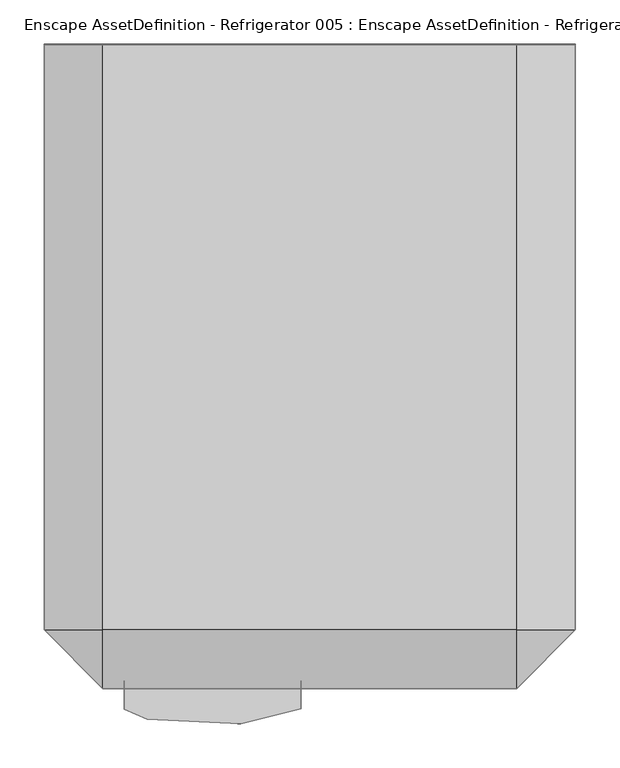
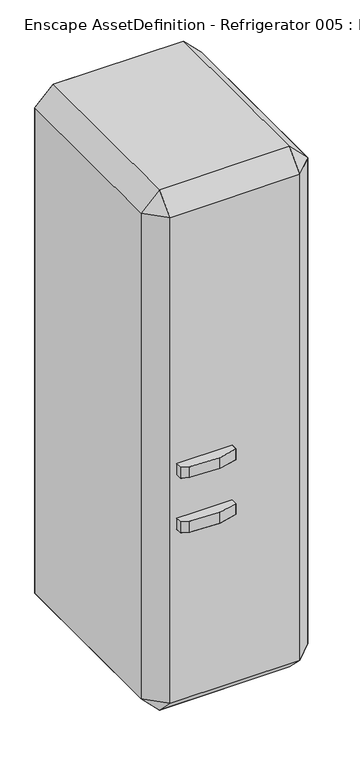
"""IFC4 building model written with IfcOpenShell, lengths in millimetres: geographic element geometry, Enscape AssetDefinition - Refrigerator 005 : Enscape AssetDefinition - Refrigerator 005."""

import ifcopenshell
import ifcopenshell.guid

model = None  # the IFC model being written
_history = None  # IfcOwnerHistory: only IFC2X3 demands one
_inside = {}  # id of a spatial element -> (the spatial element, [elements in it])
_under = {}  # id of a project, library or spatial element -> (it, [spatial elements below it])
_declared = {}  # id of a project -> (the project, [libraries it declares])
_typed = {}  # id of a type object -> (the type object, [elements of that type])
_made_of = {}  # id of a material, layer set ... -> (it, [elements and type objects made of it])


def new_model(schema):
    """Start an empty IFC model of exactly this schema.

    Asked for "IFC4X3", IfcOpenShell would pick the latest addendum, in which some entities
    have other attributes; the version numbers below select the first issue.
    IFC2X3 requires an IfcOwnerHistory on every rooted entity: one is made here for all.
    """
    global model, _history
    if schema == "IFC4X3":
        model = ifcopenshell.file(schema_version=(4, 3, 0, 0))
    else:
        model = ifcopenshell.file(schema=schema)
    _inside.clear()
    _under.clear()
    _declared.clear()
    _typed.clear()
    _made_of.clear()
    _history = None
    if model.schema == "IFC2X3":
        org = make("IfcOrganization", Name="unknown")
        user = make(
            "IfcPersonAndOrganization",
            ThePerson=make("IfcPerson", FamilyName="unknown"),
            TheOrganization=org,
        )
        app = make(
            "IfcApplication",
            ApplicationDeveloper=org,
            Version="unknown",
            ApplicationFullName="unknown",
            ApplicationIdentifier="unknown",
        )
        _history = make(
            "IfcOwnerHistory",
            OwningUser=user,
            OwningApplication=app,
            ChangeAction="ADDED",
            CreationDate=0,
        )
    return model


def make(cls, **values):
    """One entity of the class cls with the attributes given. An attribute that is None is left unset."""
    return model.create_entity(
        cls, **{name: value for name, value in values.items() if value is not None}
    )


def rooted(cls, **values):
    """An entity with a GlobalId (a new one), such as an element, a storey or a relation."""
    return make(cls, GlobalId=ifcopenshell.guid.new(), OwnerHistory=_history, **values)


def si_unit(unit_type, name, prefix=None):
    """IfcSIUnit, for example si_unit("LENGTHUNIT", "METRE", prefix="MILLI")."""
    return make("IfcSIUnit", UnitType=unit_type, Prefix=prefix, Name=name)


def assignment(units):
    """IfcUnitAssignment: the units of a project."""
    return None if units is None else make("IfcUnitAssignment", Units=units)


def point(xyz):
    """IfcCartesianPoint."""
    return None if xyz is None else make("IfcCartesianPoint", Coordinates=xyz)


def direction(xyz):
    """IfcDirection."""
    return None if xyz is None else make("IfcDirection", DirectionRatios=xyz)


def frame(location, z_axis=None, x_axis=None):
    """IfcAxis2Placement3D, a coordinate frame: its origin and axes. An axis left out is left unset."""
    return make(
        "IfcAxis2Placement3D",
        Location=point(location),
        Axis=direction(z_axis),
        RefDirection=direction(x_axis),
    )


def origin():
    """The frame at (0, 0, 0) with its axes left unset."""
    return frame((0.0, 0.0, 0.0))


def place(relative_to, where):
    """IfcLocalPlacement: puts the frame where relative to a parent placement (None: the world)."""
    return make(
        "IfcLocalPlacement", PlacementRelTo=relative_to, RelativePlacement=where
    )


def context(
    kind, dimensions, precision=None, world=None, true_north=None, identifier=None
):
    """IfcGeometricRepresentationContext, for example the 3D "Model" context."""
    return make(
        "IfcGeometricRepresentationContext",
        ContextIdentifier=identifier,
        ContextType=kind,
        CoordinateSpaceDimension=dimensions,
        Precision=precision,
        WorldCoordinateSystem=world,
        TrueNorth=true_north,
    )


def project(units=None, contexts=None):
    """IfcProject with its units and contexts."""
    return rooted(
        "IfcProject",
        Name="project",
        RepresentationContexts=contexts,
        UnitsInContext=assignment(units),
    )


def spatial(cls, under=None, at=None, **own):
    """A site, building, storey or space (cls), placed at a placement, below another one or the project."""
    s = rooted(cls, ObjectPlacement=at, **own)
    if under is not None:
        _under.setdefault(under.id(), (under, []))[1].append(s)
    return s


def point_list(points):
    """IfcCartesianPointList2D or 3D."""
    cls = (
        "IfcCartesianPointList2D" if len(points[0]) == 2 else "IfcCartesianPointList3D"
    )
    return make(cls, CoordList=points)


def triangles(points, corners, closed=None, point_numbers=None):
    """IfcTriangulatedFaceSet: each triangle names its three corners, points numbered from 1."""
    return make(
        "IfcTriangulatedFaceSet",
        Coordinates=point_list(points),
        Closed=closed,
        CoordIndex=corners,
        PnIndex=point_numbers,
    )


def shape(context_of_items, identifier, shape_type, items):
    """IfcShapeRepresentation: the items that make up one representation, for example the "Body"."""
    return make(
        "IfcShapeRepresentation",
        ContextOfItems=context_of_items,
        RepresentationIdentifier=identifier,
        RepresentationType=shape_type,
        Items=items,
    )


def source(mapping_origin, context_of_items, identifier, shape_type, items):
    """IfcRepresentationMap: a shape defined once, which mapped items show again and again."""
    return make(
        "IfcRepresentationMap",
        MappingOrigin=mapping_origin,
        MappedRepresentation=shape(context_of_items, identifier, shape_type, items),
    )


def transform(
    local_origin,
    x_axis=None,
    y_axis=None,
    z_axis=None,
    scale=None,
    scale2=None,
    scale3=None,
    uniform=True,
):
    """IfcCartesianTransformationOperator3D, or its non-uniform kind. x_axis, y_axis, z_axis: its Axis1, 2, 3."""
    if uniform:
        return make(
            "IfcCartesianTransformationOperator3D",
            Axis1=direction(x_axis),
            Axis2=direction(y_axis),
            LocalOrigin=point(local_origin),
            Scale=scale,
            Axis3=direction(z_axis),
        )
    return make(
        "IfcCartesianTransformationOperator3DnonUniform",
        Axis1=direction(x_axis),
        Axis2=direction(y_axis),
        LocalOrigin=point(local_origin),
        Scale=scale,
        Axis3=direction(z_axis),
        Scale2=scale2,
        Scale3=scale3,
    )


def mapped(mapping_source, mapping_target):
    """IfcMappedItem: shows the shape of a source again, moved by a transform."""
    return make(
        "IfcMappedItem", MappingSource=mapping_source, MappingTarget=mapping_target
    )


def made_of(thing, what):
    """Note that an element or type object is made of a material, layer set ...; save() writes the relation."""
    if what is not None:
        _made_of.setdefault(what.id(), (what, []))[1].append(thing)
    return thing


def element(
    cls,
    number,
    at=None,
    inside=None,
    cuts=None,
    type_object=None,
    material=None,
    context=None,
    identifier="Body",
    shape_type=None,
    held_by="IfcProductDefinitionShape",
    body=None,
    shapes=None,
    **own,
):
    """One element of the class cls, such as IfcWall. Its Tag is "e" and its number.

    at: its placement. inside: the storey or other place that contains it. cuts: it is an
    opening in that element (IfcRelVoidsElement). A single representation is given by context,
    identifier, shape_type and body (its items); several are given by shapes. held_by: the class
    of the entity that holds the representations. save() writes the other relations.
    """
    e = rooted(cls, Tag="e%d" % number, ObjectPlacement=at, **own)
    if body is not None:
        shapes = [shape(context, identifier, shape_type, body)]
    if shapes is not None:
        e.Representation = make(held_by, Representations=shapes)
    if inside is not None:
        _inside.setdefault(inside.id(), (inside, []))[1].append(e)
    if cuts is not None:
        rooted(
            "IfcRelVoidsElement", RelatingBuildingElement=cuts, RelatedOpeningElement=e
        )
    if type_object is not None:
        _typed.setdefault(type_object.id(), (type_object, []))[1].append(e)
    return made_of(e, material)


def aggregate(whole, parts):
    """IfcRelAggregates: a whole, such as a stair, and the parts it consists of."""
    return rooted("IfcRelAggregates", RelatingObject=whole, RelatedObjects=parts)


def save(model, path):
    """Write the relations noted so far, then the file.

    IfcRelAggregates (storeys below a building ...), IfcRelContainedInSpatialStructure (elements
    in a storey), IfcRelDefinesByType, IfcRelAssociatesMaterial and IfcRelDeclares: one each for
    every whole, place, type object, material and project.
    """
    for whole, parts in _under.values():
        aggregate(whole, parts)
    for where, things in _inside.values():
        rooted(
            "IfcRelContainedInSpatialStructure",
            RelatedElements=things,
            RelatingStructure=where,
        )
    for kind, things in _typed.values():
        rooted("IfcRelDefinesByType", RelatedObjects=things, RelatingType=kind)
    for what, things in _made_of.values():
        rooted("IfcRelAssociatesMaterial", RelatedObjects=things, RelatingMaterial=what)
    for by, libraries in _declared.values():
        rooted("IfcRelDeclares", RelatingContext=by, RelatedDefinitions=libraries)
    model.write(path)


def enscape_assetdefinition_refrigerator_005_enscape_24c0ebcb(model_context):
    return source(origin(), model_context, "Body", "Tessellation", [
        triangles([(-234.2420066, -663.9700098, 0.0), (234.2420066, -2.229, 0.0), (300.5000081, -2.229, 66.2579969), (300.5000081, -663.9700098, 66.2579969), (-234.2420066, -2.229, 0.0), (-300.5000081, -2.229, 66.2579969), (-300.5000081, -2.229, 1913.7420536), (-234.2420066, -2.229, 1980.0000732), (-300.5000081, -663.9700098, 1913.7420536), (-300.5000081, -663.9700098, 66.2579969), (-234.2420066, -730.2290468, 1913.7420536), (-234.2420066, -730.2290468, 66.2579969), (234.2420066, -730.2290468, 1913.7420536), (234.2420066, -2.229, 1980.0000732), (-234.2420066, -663.9700098, 1980.0000732), (234.2420066, -730.2290468, 66.2579969), (234.2420066, -663.9700098, 0.0), (300.5000081, -2.229, 1913.7420536), (300.5000081, -663.9700098, 1913.7420536), (234.2420066, -663.9700098, 1980.0000732), (-209.9999907, -721.2839533, 928.5960085), (-9.9999994, -721.2839533, 928.5960085), (-184.0610035, -765.0009796, 928.5960085), (-209.9999907, -753.5250086, 928.5960085), (-77.5670041, -770.03403, 928.5960085), (-209.9999907, -753.5250086, 969.5129877), (-209.9999907, -721.2839533, 969.5129877), (-77.5670041, -770.03403, 969.5129877), (-184.0610035, -765.0009796, 969.5129877), (-9.9999994, -753.1449446, 928.5960085), (-9.9999994, -721.2839533, 969.5129877), (-9.9999994, -753.1449446, 969.5129877), (-9.9999994, -723.8780537, 720.4869816), (-209.9999907, -723.8780537, 720.4869816), (-209.9999907, -753.5250086, 720.4869816), (-209.9999907, -753.5250086, 761.4039608), (-209.9999907, -723.8780537, 761.4039608), (-9.9999994, -723.8780537, 761.4039608), (-184.0610035, -765.0009796, 761.4039608), (-77.5670041, -770.03403, 761.4039608), (-184.0610035, -765.0009796, 720.4869816), (-77.5670041, -770.03403, 720.4869816), (-9.9999994, -753.1449446, 761.4039608), (-9.9999994, -753.1449446, 720.4869816)], [[38, 43, 44], [44, 33, 38], [42, 44, 43], [33, 44, 42], [43, 40, 42], [41, 42, 40], [40, 39, 41], [39, 38, 37], [39, 43, 38], [39, 40, 43], [36, 39, 37], [36, 37, 34], [35, 41, 39], [39, 36, 35], [34, 35, 36], [41, 35, 42], [35, 33, 42], [35, 34, 33], [31, 32, 30], [30, 22, 31], [25, 30, 32], [22, 30, 25], [32, 28, 25], [23, 25, 28], [28, 29, 23], [29, 31, 27], [29, 32, 31], [29, 28, 32], [26, 29, 27], [26, 27, 21], [24, 23, 29], [29, 26, 24], [21, 24, 26], [23, 24, 25], [24, 22, 25], [24, 21, 22], [4, 3, 18], [8, 14, 18], [18, 14, 20], [20, 19, 18], [18, 19, 4], [16, 4, 19], [17, 4, 16], [12, 1, 17], [17, 16, 12], [19, 13, 16], [19, 20, 13], [12, 16, 13], [13, 20, 15], [15, 20, 14], [14, 8, 15], [15, 11, 13], [13, 11, 12], [10, 12, 11], [12, 10, 1], [11, 9, 10], [9, 15, 8], [11, 15, 9], [8, 7, 9], [1, 10, 6], [6, 10, 9], [9, 7, 6], [6, 7, 8], [6, 5, 1], [4, 17, 2], [2, 3, 4], [3, 2, 18], [2, 8, 18], [2, 6, 8], [2, 5, 6], [1, 5, 2], [2, 17, 1]], closed=False),
    ])


if __name__ == "__main__":
    model = new_model("IFC4")
    model_context = context("Model", 3, world=origin())
    ifc_project = project(units=[si_unit("LENGTHUNIT", "METRE", prefix="MILLI")], contexts=[model_context])
    site = spatial("IfcSite", under=ifc_project)
    building = spatial("IfcBuilding", under=site)
    placement = place(None, origin())
    enscape_assetdefinition_refrigerator_005_enscape_shape = enscape_assetdefinition_refrigerator_005_enscape_24c0ebcb(model_context)
    element("IfcGeographicElement", 1, ObjectType="Enscape AssetDefinition - Refrigerator 005 : Enscape AssetDefinition - Refrigerator 005", at=placement, inside=building, context=model_context, shape_type="MappedRepresentation", body=[
        mapped(enscape_assetdefinition_refrigerator_005_enscape_shape, transform((0.0, 0.0, 0.0), x_axis=(1.0, 0.0, 0.0), y_axis=(0.0, 1.0, 0.0), z_axis=(0.0, 0.0, 1.0))),
    ])
    save(model, "model.ifc")
